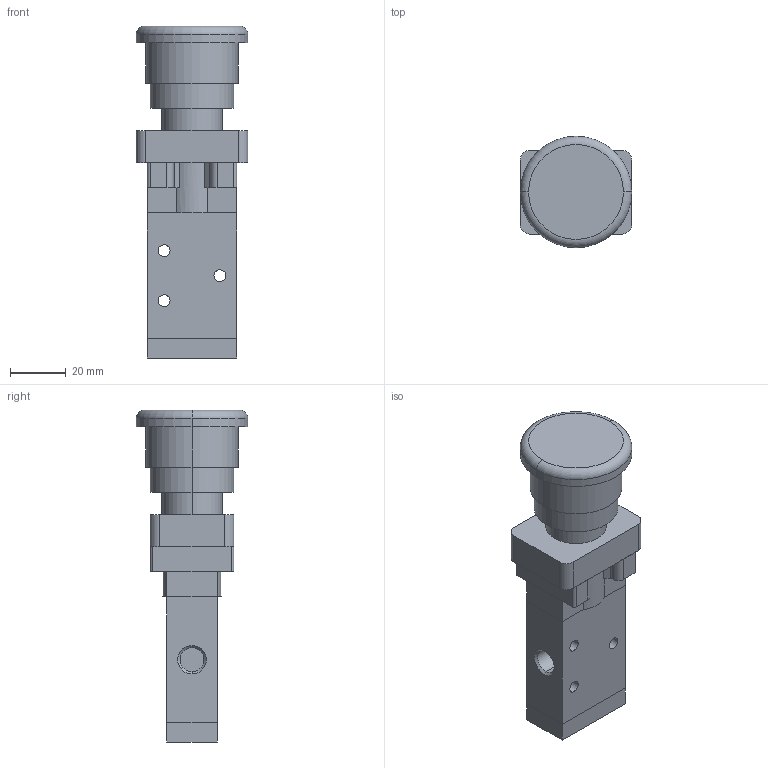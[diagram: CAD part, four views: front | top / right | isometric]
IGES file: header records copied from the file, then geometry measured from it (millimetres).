
Global section: file name: No Iges File Name specified; native system: AutoDesk Inventor R11.0; preprocessor: AutoDesk Inventor Iges Exporter R11.0; author: No Author specified; organization: No Organization specified; date: 20061219.113857; units: millimetre
Bounding box: 40 x 40 x 119 mm (x, y, z)
Volume: 83283 mm3; surface area: 17782.7 mm2
Topology: 1 solids, 1 shells, 95 faces, 240 edges, 156 vertices
Faces by surface type: plane 46, cylinder 22, bspline 15, revolution 10, torus 2
